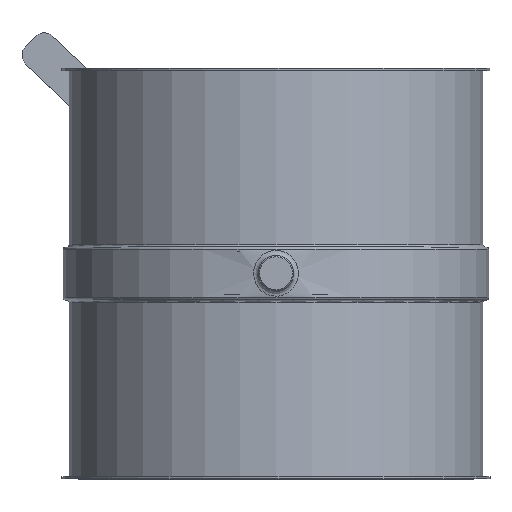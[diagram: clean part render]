
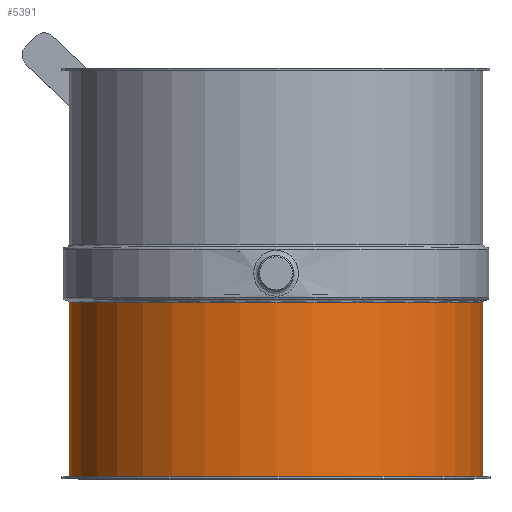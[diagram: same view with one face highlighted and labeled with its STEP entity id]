
A CAD part, top view. The second image highlights one B-rep face of the part: STEP entity #5391.
In plain terms, the highlighted cylindrical face has radius 176.5 mm (diameter 353 mm), a full revolution.
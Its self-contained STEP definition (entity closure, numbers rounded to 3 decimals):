
#5104=CARTESIAN_POINT('',(0.,2.041,0.));
#5105=VERTEX_POINT('',#5104);
#5106=CARTESIAN_POINT('',(-176.5,2.041,0.0));
#5107=DIRECTION('',(0.0,1.0,0.0));
#5108=DIRECTION('',(1.0,0.0,0.0));
#5109=AXIS2_PLACEMENT_3D('',#5106,#5107,#5108);
#5110=CIRCLE('',#5109,176.5);
#5111=EDGE_CURVE('',#5105,#5105,#5110,.T.);
#5365=CARTESIAN_POINT('',(0.,150.541,0.0));
#5366=VERTEX_POINT('',#5365);
#5367=CARTESIAN_POINT('',(-176.5,150.541,0.0));
#5368=DIRECTION('',(0.0,-1.0,0.0));
#5369=DIRECTION('',(1.0,0.0,0.0));
#5370=AXIS2_PLACEMENT_3D('',#5367,#5368,#5369);
#5371=CIRCLE('',#5370,176.5);
#5372=EDGE_CURVE('',#5366,#5366,#5371,.T.);
#5380=CARTESIAN_POINT('',(-176.5,75.291,0.0));
#5381=DIRECTION('',(0.,-1.0,0.0));
#5382=DIRECTION('',(1.0,0.0,0.0));
#5383=AXIS2_PLACEMENT_3D('',#5380,#5381,#5382);
#5384=CYLINDRICAL_SURFACE('',#5383,176.5);
#5385=ORIENTED_EDGE('',*,*,#5111,.T.);
#5386=EDGE_LOOP('',(#5385));
#5387=FACE_OUTER_BOUND('',#5386,.T.);
#5388=ORIENTED_EDGE('',*,*,#5372,.T.);
#5389=EDGE_LOOP('',(#5388));
#5390=FACE_BOUND('',#5389,.T.);
#5391=ADVANCED_FACE('',(#5387,#5390),#5384,.T.);
